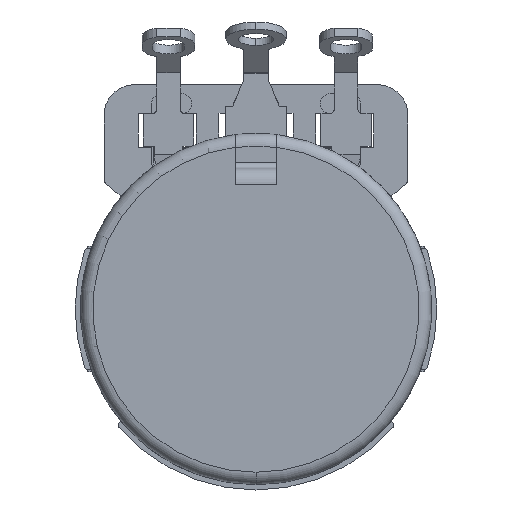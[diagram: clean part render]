
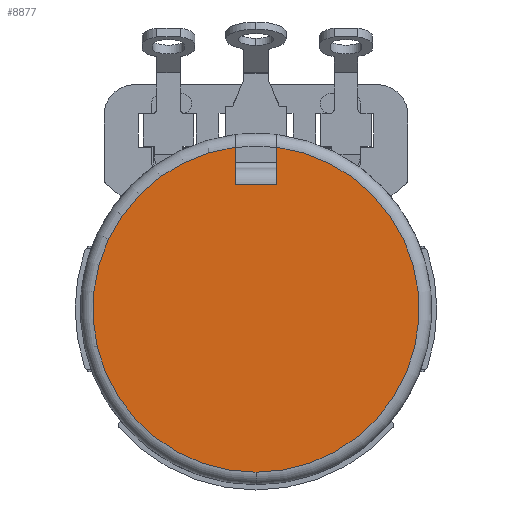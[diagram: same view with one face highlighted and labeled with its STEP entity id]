
A CAD part, front view. The second image highlights one B-rep face of the part: STEP entity #8877.
In plain terms, the highlighted planar face has unit normal (0, -1, 0).
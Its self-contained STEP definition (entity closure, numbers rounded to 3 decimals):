
#15 = DIRECTION ( 'NONE',  ( 0., 0., -1. ) ) ;
#1703 = EDGE_CURVE ( 'NONE', #5905, #15055, #15367, .T. ) ;
#1875 = CARTESIAN_POINT ( 'NONE',  ( 0., 0., 0. ) ) ;
#2619 = CIRCLE ( 'NONE', #22790, 10.973 ) ;
#2719 = DIRECTION ( 'NONE',  ( -1., 0., 0. ) ) ;
#3073 = ORIENTED_EDGE ( 'NONE', *, *, #13587, .T. ) ;
#3973 = CARTESIAN_POINT ( 'NONE',  ( 0., 0., -10.973 ) ) ;
#4882 = DIRECTION ( 'NONE',  ( 0., -1., 0. ) ) ;
#5905 = VERTEX_POINT ( 'NONE', #8069 ) ;
#5955 = EDGE_CURVE ( 'NONE', #5905, #11694, #12276, .T. ) ;
#6273 = CARTESIAN_POINT ( 'NONE',  ( 1.397, 0., 10.884 ) ) ;
#6426 = DIRECTION ( 'NONE',  ( 0., 0., -1. ) ) ;
#8069 = CARTESIAN_POINT ( 'NONE',  ( 1.397, 0., 8.382 ) ) ;
#8081 = CARTESIAN_POINT ( 'NONE',  ( -5.207, 0., 0. ) ) ;
#8414 = CARTESIAN_POINT ( 'NONE',  ( -1.397, 0., 8.382 ) ) ;
#8603 = CARTESIAN_POINT ( 'NONE',  ( 0., 0., 0. ) ) ;
#8877 = ADVANCED_FACE ( 'NONE', ( #12284 ), #15744, .T. ) ;
#9063 = VERTEX_POINT ( 'NONE', #23029 ) ;
#9711 = AXIS2_PLACEMENT_3D ( 'NONE', #8081, #21212, #12046 ) ;
#9829 = CARTESIAN_POINT ( 'NONE',  ( -1.397, 0., 8.382 ) ) ;
#9884 = CIRCLE ( 'NONE', #15424, 10.973 ) ;
#10793 = ORIENTED_EDGE ( 'NONE', *, *, #1703, .F. ) ;
#11289 = VECTOR ( 'NONE', #11793, 1000. ) ;
#11303 = VERTEX_POINT ( 'NONE', #3973 ) ;
#11670 = CARTESIAN_POINT ( 'NONE',  ( 1.397, 0., 12.522 ) ) ;
#11694 = VERTEX_POINT ( 'NONE', #9829 ) ;
#11780 = ORIENTED_EDGE ( 'NONE', *, *, #5955, .T. ) ;
#11793 = DIRECTION ( 'NONE',  ( 0., 0., 1. ) ) ;
#12046 = DIRECTION ( 'NONE',  ( 0., 0., -1. ) ) ;
#12276 = LINE ( 'NONE', #8414, #14329 ) ;
#12284 = FACE_OUTER_BOUND ( 'NONE', #21276, .T. ) ;
#13587 = EDGE_CURVE ( 'NONE', #9063, #11303, #9884, .T. ) ;
#14329 = VECTOR ( 'NONE', #2719, 1000. ) ;
#15055 = VERTEX_POINT ( 'NONE', #6273 ) ;
#15367 = LINE ( 'NONE', #11670, #11289 ) ;
#15424 = AXIS2_PLACEMENT_3D ( 'NONE', #8603, #4882, #15784 ) ;
#15744 = PLANE ( 'NONE',  #9711 ) ;
#15784 = DIRECTION ( 'NONE',  ( 0., 0., -1. ) ) ;
#15855 = EDGE_CURVE ( 'NONE', #11303, #15055, #2619, .T. ) ;
#19438 = CARTESIAN_POINT ( 'NONE',  ( -1.397, 0., 12.522 ) ) ;
#19776 = VECTOR ( 'NONE', #6426, 1000. ) ;
#20140 = EDGE_CURVE ( 'NONE', #9063, #11694, #22927, .T. ) ;
#21177 = DIRECTION ( 'NONE',  ( 0., -1., 0. ) ) ;
#21212 = DIRECTION ( 'NONE',  ( 0., -1., 0. ) ) ;
#21276 = EDGE_LOOP ( 'NONE', ( #10793, #11780, #23085, #3073, #23740 ) ) ;
#22790 = AXIS2_PLACEMENT_3D ( 'NONE', #1875, #21177, #15 ) ;
#22927 = LINE ( 'NONE', #19438, #19776 ) ;
#23029 = CARTESIAN_POINT ( 'NONE',  ( -1.397, 0., 10.884 ) ) ;
#23085 = ORIENTED_EDGE ( 'NONE', *, *, #20140, .F. ) ;
#23740 = ORIENTED_EDGE ( 'NONE', *, *, #15855, .T. ) ;
